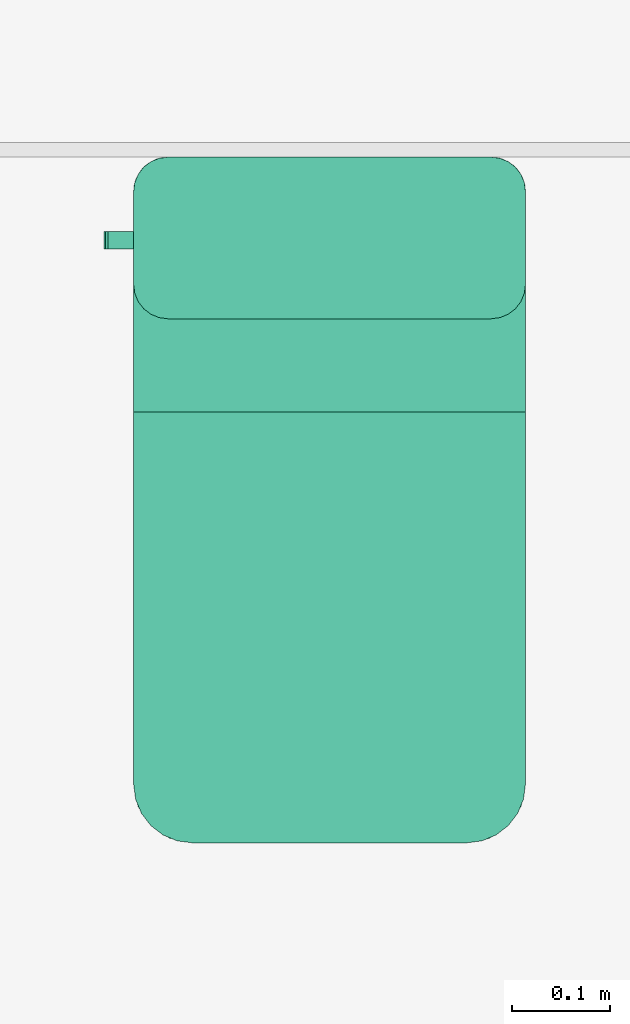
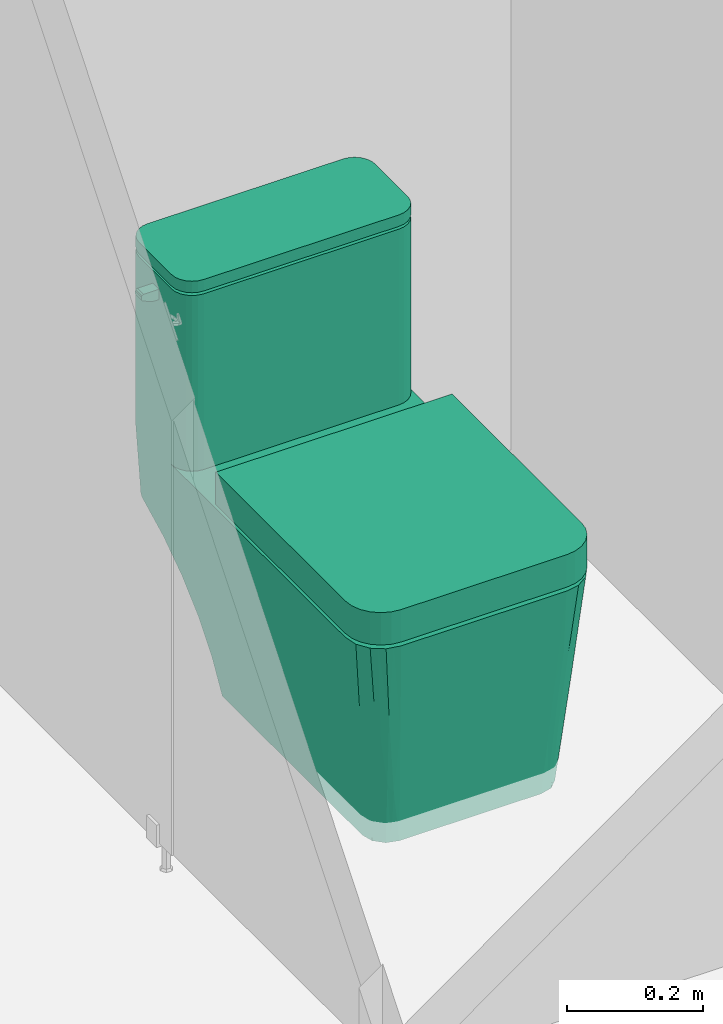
# One storey, part 70 of 76: 1 flow terminal.
"""IFC2X3 building model written with IfcOpenShell, lengths in millimetres."""

from ifc_helpers import new_model, entity, si_unit, converted_unit, derived_unit, direction, frame, origin, place, context, subcontext, project, spatial, faceted_brep, source, transform, mapped, material, material_list, type_object, type_shapes, element, save


model = new_model("IFC2X3")

# Units and contexts
model_context = context("Model", 3, precision=0.01, world=origin(), true_north=direction((6.123031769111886e-17, 1.0)))
body_context = subcontext(model_context, "Body", "Model", "MODEL_VIEW")
ifc_project = project(units=[si_unit("LENGTHUNIT", "METRE", prefix="MILLI"), si_unit("AREAUNIT", "SQUARE_METRE"), si_unit("VOLUMEUNIT", "CUBIC_METRE"), converted_unit("PLANEANGLEUNIT", "DEGREE", entity("IfcRatioMeasure", 0.017453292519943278), si_unit("PLANEANGLEUNIT", "RADIAN"), dimensions=[0, 0, 0, 0, 0, 0, 0]), si_unit("MASSUNIT", "GRAM", prefix="KILO"), derived_unit("MASSDENSITYUNIT", [(si_unit("MASSUNIT", "GRAM", prefix="KILO"), 1), (si_unit("LENGTHUNIT", "METRE"), -3)]), derived_unit("MOMENTOFINERTIAUNIT", [(si_unit("LENGTHUNIT", "METRE"), 4)]), si_unit("TIMEUNIT", "SECOND"), si_unit("FREQUENCYUNIT", "HERTZ"), si_unit("THERMODYNAMICTEMPERATUREUNIT", "DEGREE_CELSIUS"), derived_unit("THERMALTRANSMITTANCEUNIT", [(si_unit("MASSUNIT", "GRAM", prefix="KILO"), 1), (si_unit("THERMODYNAMICTEMPERATUREUNIT", "KELVIN"), -1), (si_unit("TIMEUNIT", "SECOND"), -3)]), derived_unit("VOLUMETRICFLOWRATEUNIT", [(si_unit("LENGTHUNIT", "METRE"), 3), (si_unit("TIMEUNIT", "SECOND"), -1)]), derived_unit("MASSFLOWRATEUNIT", [(si_unit("MASSUNIT", "GRAM", prefix="KILO"), 1), (si_unit("TIMEUNIT", "SECOND"), -1)]), derived_unit("ROTATIONALFREQUENCYUNIT", [(si_unit("TIMEUNIT", "SECOND"), -1)]), si_unit("ELECTRICCURRENTUNIT", "AMPERE"), si_unit("ELECTRICVOLTAGEUNIT", "VOLT"), si_unit("POWERUNIT", "WATT"), si_unit("FORCEUNIT", "NEWTON", prefix="KILO"), si_unit("ILLUMINANCEUNIT", "LUX"), si_unit("LUMINOUSFLUXUNIT", "LUMEN"), si_unit("LUMINOUSINTENSITYUNIT", "CANDELA"), derived_unit("USERDEFINED", [(si_unit("MASSUNIT", "GRAM", prefix="KILO"), -1), (si_unit("LENGTHUNIT", "METRE"), -2), (si_unit("TIMEUNIT", "SECOND"), 3), (si_unit("LUMINOUSFLUXUNIT", "LUMEN"), 1)]), derived_unit("SOUNDPOWERUNIT", [(si_unit("MASSUNIT", "GRAM", prefix="KILO"), 1), (si_unit("LENGTHUNIT", "METRE"), 2), (si_unit("TIMEUNIT", "SECOND"), -3)]), derived_unit("SOUNDPRESSUREUNIT", [(si_unit("MASSUNIT", "GRAM", prefix="KILO"), 1), (si_unit("LENGTHUNIT", "METRE"), -1), (si_unit("TIMEUNIT", "SECOND"), -2)]), derived_unit("LINEARVELOCITYUNIT", [(si_unit("LENGTHUNIT", "METRE"), 1), (si_unit("TIMEUNIT", "SECOND"), -1)]), si_unit("PRESSUREUNIT", "PASCAL"), derived_unit("USERDEFINED", [(si_unit("LENGTHUNIT", "METRE"), -2), (si_unit("MASSUNIT", "GRAM", prefix="KILO"), 1), (si_unit("TIMEUNIT", "SECOND"), -2)]), derived_unit("LINEARFORCEUNIT", [(si_unit("MASSUNIT", "GRAM", prefix="KILO"), 1), (si_unit("LENGTHUNIT", "METRE"), 1), (si_unit("TIMEUNIT", "SECOND"), -2), (si_unit("LENGTHUNIT", "METRE"), -1)]), derived_unit("PLANARFORCEUNIT", [(si_unit("MASSUNIT", "GRAM", prefix="KILO"), 1), (si_unit("LENGTHUNIT", "METRE"), 1), (si_unit("TIMEUNIT", "SECOND"), -2), (si_unit("LENGTHUNIT", "METRE"), -2)])], contexts=[model_context])

# Site, building, storey, space
site_placement = place(None, frame((-14167.972527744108, -657.2125860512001, 0.0)))
site = spatial("IfcSite", under=ifc_project, at=site_placement, Name="Default", CompositionType="ELEMENT")
building_placement = place(site_placement, origin())
building = spatial("IfcBuilding", under=site, at=building_placement, Name="Sample Building", CompositionType="ELEMENT")
storey_placement = place(building_placement, frame((0.0, 0.0, 9300.0)))
storey = spatial("IfcBuildingStorey", under=building, at=storey_placement, Name="지상 3층", CompositionType="ELEMENT", Elevation=9300.000000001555)
space_placement = place(storey_placement, origin())
space = spatial("IfcSpace", under=storey, at=space_placement, Name="203", CompositionType="ELEMENT", InteriorOrExteriorSpace="INTERNAL")

# Flow terminal
ifc_material_1 = material(Name="KBIMS-스테인리스 스틸_도금")
ifc_material_2 = material(Name="KBIMS-도기")
ifc_material_list_1 = material_list([ifc_material_1, ifc_material_2])
ifc_material_list_2 = material_list([ifc_material_1, ifc_material_2, ifc_material_2])
distribution_element_type = type_object("IfcDistributionElementType", Name="PF127-서양식 탱크일체형:PF127-서양식 탱크일체형", material=ifc_material_list_2)
shared_shape = source(origin(), body_context, "Body", "Brep", [
    faceted_brep([(-200.0, -93.78427766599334, 671.547634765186), (-226.3198216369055, -93.78427766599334, 671.5476347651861), (-228.9221007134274, -93.78427766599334, 670.469735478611), (-230.0, -93.78427766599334, 667.8674564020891), (-230.0, -93.78427766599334, 663.5153317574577), (-229.51628854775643, -93.78427766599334, 661.8557929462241), (-228.21666089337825, -93.78427766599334, 660.71605008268), (-215.9758797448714, -93.78427766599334, 655.0080800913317), (-211.766557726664, -93.78427766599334, 653.5792078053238), (-207.34774888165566, -93.78427766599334, 653.095269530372), (-200.0, -93.78427766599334, 653.095269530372), (-230.0, -75.66503821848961, 663.5153317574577), (-230.0, -75.66503821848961, 667.8674564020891), (-228.9221007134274, -75.66503821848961, 670.469735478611), (-226.31982163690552, -75.66503821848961, 671.5476347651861), (-200.0, -75.66503821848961, 671.547634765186), (-200.0, -75.66503821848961, 653.095269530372), (-207.34774888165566, -75.66503821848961, 653.095269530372), (-211.766557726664, -75.66503821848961, 653.5792078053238), (-215.97587974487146, -75.66503821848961, 655.0080800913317), (-228.21666089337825, -75.66503821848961, 660.71605008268), (-229.51628854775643, -75.66503821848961, 661.8557929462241)], [[[0, 1, 2, 3, 4, 5, 6, 7, 8, 9, 10]], [[11, 12, 13, 14, 15, 16, 17, 18, 19, 20, 21]], [[1, 14, 13, 2]], [[13, 12, 3, 2]], [[4, 3, 12, 11]], [[4, 11, 21, 5]], [[21, 20, 6, 5]], [[7, 6, 20, 19]], [[7, 19, 18, 8]], [[18, 17, 9, 8]], [[10, 9, 17, 16]], [[0, 10, 16, 15]], [[1, 0, 15, 14]]]),
    faceted_brep([(140.0, -700.0, 445.0), (155.52914270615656, -697.9555495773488, 445.0), (170.0, -691.9615242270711, 445.0), (182.42640687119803, -682.4264068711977, 445.0), (191.96152422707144, -670.0, 445.0), (197.9555495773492, -655.5291427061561, 445.0), (200.0, -640.0, 445.0), (200.0, -260.0, 445.0), (-200.0, -260.0, 445.0), (-200.0, -640.0, 445.0), (-197.95554957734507, -655.5291427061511, 445.0), (-191.96152422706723, -670.0, 445.0), (-182.42640687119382, -682.4264068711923, 445.0), (-170.0, -691.9615242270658, 445.0), (-155.52914270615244, -697.9555495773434, 445.0), (-140.0, -700.0, 445.0), (-200.0, -640.0, 386.96747142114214), (-200.0, -260.0, 386.96747142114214), (200.0, -260.0, 386.96747142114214), (200.0, -640.0, 386.96747142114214), (197.9555495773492, -655.5291427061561, 386.96747142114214), (191.96152422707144, -670.0, 386.96747142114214), (182.42640687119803, -682.4264068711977, 386.96747142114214), (170.0, -691.9615242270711, 386.96747142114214), (155.52914270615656, -697.9555495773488, 386.96747142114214), (140.0, -700.0, 386.96747142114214), (-140.0, -700.0, 386.96747142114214), (-155.52914270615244, -697.9555495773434, 386.96747142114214), (-170.0, -691.9615242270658, 386.96747142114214), (-182.42640687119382, -682.4264068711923, 386.96747142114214), (-191.96152422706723, -670.0, 386.96747142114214), (-197.95554957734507, -655.5291427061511, 386.96747142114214)], [[[0, 1, 2, 3, 4, 5, 6, 7, 8, 9, 10, 11, 12, 13, 14, 15]], [[16, 17, 18, 19, 20, 21, 22, 23, 24, 25, 26, 27, 28, 29, 30, 31]], [[1, 24, 23, 2]], [[2, 23, 22, 3]], [[25, 24, 1, 0]], [[4, 21, 20, 5]], [[5, 20, 19, 6]], [[3, 22, 21, 4]], [[7, 6, 19, 18]], [[8, 7, 18, 17]], [[9, 8, 17, 16]], [[10, 31, 30, 11]], [[11, 30, 29, 12]], [[9, 16, 31, 10]], [[13, 28, 27, 14]], [[14, 27, 26, 15]], [[12, 29, 28, 13]], [[0, 15, 26, 25]]]),
    faceted_brep([(165.0, 0.0, 694.4321747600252), (165.0, 0.0, 380.0), (164.13685378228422, 0.0, 314.40088745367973), (163.42105263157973, 0.0, 260.0), (-163.42105263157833, 0.0, 260.0), (-164.1368541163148, 0.0, 314.40091283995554), (-165.0, 0.0, 380.0), (-165.0, 0.0, 694.4321747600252), (-165.0, 0.0, 720.0), (165.0, 0.0, 720.0), (165.0, 0.0, 699.4321747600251), (-165.0, 0.0, 699.4321747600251), (200.0, -35.0, 694.4321747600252), (200.0, -130.0, 694.4321747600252), (200.0, -130.0, 380.0), (200.0, -35.0, 380.0), (200.0, -35.0, 720.0), (200.0, -130.0, 720.0), (200.0, -130.0, 699.4321747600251), (200.0, -35.0, 699.4321747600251), (-198.80740392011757, -139.05866657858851, 694.4321747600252), (-198.80740392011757, -139.0586665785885, 380.0), (-195.31088913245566, -147.5000000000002, 380.0), (-195.31088913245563, -147.50000000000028, 694.4321747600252), (-198.80740392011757, -139.05866657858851, 699.4321747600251), (-195.31088913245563, -147.50000000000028, 699.4321747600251), (-195.3108891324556, -147.50000000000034, 720.0), (-198.80740392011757, -139.05866657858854, 720.0), (-189.74873734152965, -154.74873734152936, 380.0), (-189.74873734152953, -154.74873734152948, 694.4321747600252), (-189.74873734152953, -154.74873734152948, 699.4321747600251), (-189.74873734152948, -154.74873734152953, 720.0), (-200.0, -130.0, 380.0), (-200.0, -130.0, 694.4321747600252), (-200.0, -130.0, 699.4321747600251), (-200.0, -130.0, 720.0), (-182.5000000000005, -160.31088913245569, 694.4321747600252), (-182.50000000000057, -160.31088913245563, 380.0), (-174.05866657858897, -163.80740392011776, 380.0), (-174.05866657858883, -163.8074039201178, 694.4321747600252), (-174.05866657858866, -163.80740392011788, 720.0), (-182.50000000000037, -160.31088913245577, 720.0), (-182.5000000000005, -160.31088913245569, 699.4321747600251), (-174.05866657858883, -163.8074039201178, 699.4321747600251), (-165.0, -165.0, 380.0), (-165.0, -165.0, 694.4321747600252), (-165.0, -165.0, 720.0), (-165.0, -165.0, 699.4321747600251), (165.0, -165.0, 694.4321747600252), (165.0, -165.0, 380.0), (165.0, -165.0, 720.0), (165.0, -165.0, 699.4321747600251), (-200.0, -35.0, 694.4321747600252), (-200.0, -35.0, 380.0), (-200.0, -35.0, 720.0), (-200.0, -35.0, 699.4321747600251), (198.80740392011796, -25.941333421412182, 699.4321747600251), (195.310889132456, -17.500000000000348, 699.4321747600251), (195.31088913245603, -17.500000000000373, 720.0), (198.80740392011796, -25.94133342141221, 720.0), (189.74873734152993, -10.251262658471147, 720.0), (189.74873734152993, -10.251262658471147, 699.4321747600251), (174.05866657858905, -1.1925960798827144, 699.4321747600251), (174.0586665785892, -1.192596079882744, 720.0), (182.50000000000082, -4.68911086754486, 699.4321747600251), (182.50000000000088, -4.68911086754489, 720.0), (174.05866657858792, -163.80740392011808, 694.4321747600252), (174.05866657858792, -163.80740392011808, 380.0), (182.49999999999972, -160.31088913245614, 380.0), (182.49999999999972, -160.31088913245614, 694.4321747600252), (174.05866657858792, -163.80740392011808, 699.4321747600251), (182.49999999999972, -160.31088913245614, 699.4321747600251), (182.5000000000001, -160.31088913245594, 720.0), (174.0586665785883, -163.80740392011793, 720.0), (189.74873734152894, -154.74873734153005, 380.0), (189.74873734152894, -154.74873734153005, 694.4321747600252), (189.74873734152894, -154.74873734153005, 699.4321747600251), (189.74873734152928, -154.74873734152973, 720.0), (195.31088913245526, -147.50000000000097, 694.4321747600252), (195.31088913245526, -147.50000000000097, 380.0), (198.8074039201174, -139.05866657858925, 380.0), (198.8074039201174, -139.05866657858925, 694.4321747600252), (195.31088913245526, -147.50000000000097, 699.4321747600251), (198.8074039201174, -139.05866657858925, 699.4321747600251), (198.80740392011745, -139.0586665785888, 720.0), (195.3108891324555, -147.50000000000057, 720.0), (-174.0586665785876, -1.1925960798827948, 720.0), (-174.0586665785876, -1.1925960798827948, 699.4321747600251), (-182.49999999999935, -4.689110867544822, 720.0), (-182.49999999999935, -4.689110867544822, 699.4321747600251), (-189.7487373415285, -10.251262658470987, 720.0), (-189.7487373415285, -10.251262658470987, 699.4321747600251), (-198.8074039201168, -25.941333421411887, 720.0), (-195.31088913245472, -17.50000000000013, 720.0), (-195.31088913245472, -17.50000000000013, 699.4321747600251), (-198.8074039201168, -25.941333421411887, 699.4321747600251), (-174.0586665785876, -1.192596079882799, 694.4321747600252), (-171.07672145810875, -0.5315585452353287, 380.0), (-176.96898132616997, -2.1101309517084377, 380.0), (-182.49999999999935, -4.689110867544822, 694.4321747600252), (-182.49783433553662, -4.687860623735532, 380.0), (-187.49533036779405, -8.18656844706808, 380.0), (-189.7487373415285, -10.251262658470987, 694.4321747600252), (-195.31088913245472, -17.50000000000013, 694.4321747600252), (-195.3094689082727, -17.4975403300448, 380.0), (-197.88846700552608, -23.02716666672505, 380.0), (-198.8074039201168, -25.941333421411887, 694.4321747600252), (-199.4680424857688, -28.921015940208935, 380.0), (-191.8095995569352, -12.500102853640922, 380.0), (198.80740392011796, -25.941333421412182, 694.4321747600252), (199.46810048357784, -28.92134479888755, 380.0), (197.88863680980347, -23.02763311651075, 380.0), (195.310889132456, -17.500000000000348, 694.4321747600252), (195.3097905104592, -17.498097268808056, 380.0), (191.81007551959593, -12.500669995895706, 380.0), (189.74873734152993, -10.251262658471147, 694.4321747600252), (182.50000000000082, -4.68911086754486, 694.4321747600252), (182.49858765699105, -4.6882954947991, 380.0), (176.9698186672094, -2.110435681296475, 380.0), (171.0775985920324, -0.5317131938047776, 380.0), (174.05866657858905, -1.1925960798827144, 694.4321747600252), (187.49595914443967, -8.187095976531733, 380.0), (160.0, -210.0, 0.0), (160.0, -620.0, 0.0), (156.6733983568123, -632.4150463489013, 0.0), (154.64101615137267, -640.0, 0.0), (147.3205080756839, -647.3205080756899, 0.0), (140.0, -654.6410161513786, 0.0), (132.41504577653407, -656.673398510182, 0.0), (120.0, -660.0, 0.0), (-120.0, -660.0, 0.0), (-132.4150463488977, -656.6733983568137, 0.0), (-140.0, -654.6410161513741, 0.0), (-147.32050807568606, -647.3205080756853, 0.0), (-154.64101615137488, -640.0, 0.0), (-156.67339851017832, -632.4150457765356, 0.0), (-160.0, -620.0, 0.0), (-160.0, -210.0, 0.0), (-200.0, -640.0, 380.0), (-197.71638597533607, -651.4805029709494, 380.0), (-195.43277195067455, -662.961005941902, 380.0), (-188.92958941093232, -672.6937064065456, 380.0), (-182.42640687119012, -682.4264068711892, 380.0), (-172.69370640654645, -688.9295894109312, 380.0), (-162.96100594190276, -695.4327719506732, 380.0), (-151.48050297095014, -697.7163859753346, 380.0), (-140.0, -700.0, 380.0), (140.0, -700.0, 380.0), (151.4805029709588, -697.7163859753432, 380.0), (162.9610059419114, -695.4327719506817, 380.0), (172.69370640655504, -688.9295894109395, 380.0), (182.42640687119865, -682.4264068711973, 380.0), (188.9295894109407, -672.6937064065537, 380.0), (195.4327719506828, -662.96100594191, 380.0), (197.7163859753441, -651.4805029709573, 380.0), (200.0, -640.0, 380.0), (181.88767422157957, -630.9438371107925, 207.93290510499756), (169.05616288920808, -624.5280814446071, 86.03354744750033), (166.41215116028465, -190.4623972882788, 60.91543602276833), (172.39104658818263, -161.03070825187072, 117.71494258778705), (177.76891724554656, -122.53079215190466, 168.80471383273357), (182.39485897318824, -76.04296457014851, 212.75116024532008), (186.13906689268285, -22.871683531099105, 248.32113548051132), (193.0948286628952, -28.957975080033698, 314.4008722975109), (184.4509041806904, -13.399793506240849, 253.3937042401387), (192.48236559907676, -21.712362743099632, 318.068486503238), (185.85897664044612, -18.078391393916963, 250.93098822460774), (169.4535256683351, -0.47508644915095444, 318.71364296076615), (176.81269594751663, -2.7853559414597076, 322.8232335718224), (184.85554366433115, -8.564241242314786, 317.5126549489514), (188.64536552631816, -13.805323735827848, 311.79954638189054), (181.93237214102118, -9.070973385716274, 255.5993773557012), (168.85282113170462, -0.6257823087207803, 259.7058617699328), (178.3784036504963, -5.339995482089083, 257.4452533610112), (173.94033185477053, -2.453774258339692, 258.83869964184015), (-193.09483031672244, -28.957976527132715, 314.4008880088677), (-192.48224700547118, -21.712007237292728, 318.06820833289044), (-185.85897664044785, -18.07839139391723, 250.93098822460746), (-169.4535400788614, -0.47508841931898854, 318.7138102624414), (-188.64533012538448, -13.805305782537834, 311.79916939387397), (-184.4509041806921, -13.399793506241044, 253.39370424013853), (-184.85525539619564, -8.563839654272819, 317.5148648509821), (-178.37840365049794, -5.3399954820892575, 257.44525336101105), (-181.93237214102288, -9.070973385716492, 255.59937735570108), (-186.13906689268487, -22.87168353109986, 248.32113548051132), (-176.81199260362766, -2.7850356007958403, 322.8227486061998), (-173.9403318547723, -2.4537742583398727, 258.8386996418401), (-168.85282113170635, -0.6257823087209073, 259.70586176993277), (-182.39485897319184, -76.04296457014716, 212.75116024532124), (-177.7689172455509, -122.53079215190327, 168.8047138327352), (-172.3910465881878, -161.03070825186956, 117.71494258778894), (-166.4121511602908, -190.46239728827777, 60.9154360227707), (-170.9438402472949, -625.4719201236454, 103.96648234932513), (-181.88767486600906, -630.9438374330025, 207.932911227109), (167.84723921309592, -644.8835703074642, 113.26853664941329), (182.70359618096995, -650.4613144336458, 244.34084888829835), (172.7916320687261, -658.8131569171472, 202.6373284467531), (163.28959461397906, -663.2895949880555, 167.00838556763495), (161.3612464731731, -651.454814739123, 94.73545488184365), (130.94384024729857, -681.8876804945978, 207.93296469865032), (137.1466297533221, -675.5797921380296, 155.949684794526), (142.81243148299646, -686.5857660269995, 259.99216222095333), (174.39327642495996, -671.2588406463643, 273.5041922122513), (151.45063444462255, -661.3663368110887, 94.74858838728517), (144.3377504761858, -669.7672265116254, 125.97246068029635), (152.4807217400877, -683.0768420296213, 253.0686677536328), (158.81315653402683, -672.7916326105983, 202.63733033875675), (125.47192012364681, -670.9438402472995, 103.96648234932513), (169.1268939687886, -634.5961485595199, 96.37357614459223), (-130.94383711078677, -681.8876742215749, 207.93290510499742), (-124.52808144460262, -669.056162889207, 86.03354744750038), (-144.88357030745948, -667.8472392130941, 113.26853664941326), (-150.46131443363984, -682.7035961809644, 244.34084888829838), (-158.8131569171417, -672.7916320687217, 202.6373284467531), (-163.28959498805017, -663.2895946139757, 167.00838556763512), (-151.4548147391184, -661.3612464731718, 94.73545488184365), (-175.57979213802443, -637.1466297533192, 155.94968479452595), (-186.58576602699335, -642.8124314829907, 259.99216222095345), (-171.25884064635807, -674.3932764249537, 273.50419221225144), (-161.36633681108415, -651.4506344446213, 94.74858838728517), (-169.76722651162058, -644.3377504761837, 125.97246068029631), (-172.79163261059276, -658.8131565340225, 202.63733033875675), (-134.5961485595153, -669.1268939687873, 96.37357614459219), (-183.07684202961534, -652.480721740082, 253.06866775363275), (-185.0, -150.0, 699.4321747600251), (-185.0, -15.0, 699.4321747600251), (-185.0, -15.0, 694.4321747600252), (-185.0, -150.0, 694.4321747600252), (185.0, -150.0, 699.4321747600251), (185.0, -150.0, 694.4321747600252), (185.0, -15.0, 699.4321747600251), (185.0, -15.0, 694.4321747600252)], [[[0, 1, 2, 3, 4, 5, 6, 7]], [[8, 9, 10, 11]], [[12, 13, 14, 15]], [[16, 17, 18, 19]], [[20, 21, 22, 23]], [[24, 25, 26, 27]], [[23, 22, 28, 29]], [[25, 30, 31, 26]], [[32, 21, 20, 33]], [[34, 24, 27, 35]], [[36, 37, 38, 39]], [[40, 41, 42, 43]], [[39, 38, 44, 45]], [[46, 40, 43, 47]], [[29, 28, 37, 36]], [[30, 42, 41, 31]], [[48, 45, 44, 49]], [[50, 46, 47, 51]], [[33, 52, 53, 32]], [[35, 54, 55, 34]], [[56, 57, 58, 59]], [[19, 56, 59, 16]], [[60, 58, 57, 61]], [[62, 10, 9, 63]], [[64, 62, 63, 65]], [[61, 64, 65, 60]], [[66, 67, 68, 69]], [[70, 71, 72, 73]], [[69, 68, 74, 75]], [[71, 76, 77, 72]], [[49, 67, 66, 48]], [[51, 70, 73, 50]], [[78, 79, 80, 81]], [[82, 83, 84, 85]], [[81, 80, 14, 13]], [[83, 18, 17, 84]], [[75, 74, 79, 78]], [[76, 82, 85, 77]], [[86, 8, 11, 87]], [[88, 86, 87, 89]], [[90, 88, 89, 91]], [[92, 93, 94, 95]], [[54, 92, 95, 55]], [[91, 94, 93, 90]], [[9, 8, 86, 88, 90, 93, 92, 54, 35, 27, 26, 31, 41, 40, 46, 50, 73, 72, 77, 85, 84, 17, 16, 59, 58, 60, 65, 63]], [[96, 97, 98]], [[99, 98, 100]], [[99, 100, 101]], [[6, 97, 7]], [[7, 97, 96]], [[98, 99, 96]], [[101, 102, 99]], [[103, 104, 105]], [[106, 105, 107]], [[52, 107, 53]], [[102, 108, 103]], [[108, 102, 101]], [[104, 103, 108]], [[105, 106, 103]], [[107, 52, 106]], [[109, 110, 111]], [[112, 111, 113]], [[112, 113, 114]], [[15, 110, 12]], [[12, 110, 109]], [[111, 112, 109]], [[114, 115, 112]], [[116, 117, 118]], [[118, 119, 120]], [[1, 0, 119]], [[115, 121, 116]], [[121, 115, 114]], [[117, 116, 121]], [[118, 120, 116]], [[119, 0, 120]], [[122, 123, 124, 125, 126, 127, 128, 129, 130, 131, 132, 133, 134, 135, 136, 137]], [[21, 32, 138, 139, 140, 141, 142, 143, 144, 145, 146, 147, 148, 149, 150, 151, 152, 153, 154, 155, 14, 80, 79, 74, 68, 67, 49, 44, 38, 37, 28, 22]], [[14, 155, 156, 157, 123, 122, 158, 159, 160, 161, 162, 163, 15]], [[164, 165, 166]], [[1, 119, 167]], [[118, 117, 168]], [[169, 170, 171]], [[121, 169, 168]], [[117, 121, 168]], [[2, 1, 167, 3]], [[170, 114, 113]], [[172, 167, 168]], [[110, 15, 163]], [[173, 174, 168]], [[171, 173, 169]], [[114, 169, 121]], [[111, 165, 170]], [[111, 110, 165]], [[3, 167, 172]], [[165, 163, 166]], [[168, 169, 173]], [[169, 114, 170]], [[172, 168, 174]], [[171, 170, 164]], [[164, 170, 165]], [[168, 167, 118]], [[166, 163, 162]], [[163, 165, 110]], [[167, 119, 118]], [[170, 113, 111]], [[175, 176, 177]], [[98, 97, 178]], [[176, 105, 179]], [[176, 179, 180]], [[108, 181, 179]], [[182, 183, 181]], [[175, 107, 176]], [[6, 5, 4, 178]], [[184, 175, 177]], [[176, 180, 177]], [[182, 185, 186]], [[179, 183, 180]], [[105, 104, 179]], [[101, 181, 108]], [[185, 100, 98]], [[185, 98, 178]], [[185, 178, 187]], [[97, 6, 178]], [[101, 100, 185]], [[181, 101, 185]], [[107, 105, 176]], [[185, 182, 181]], [[185, 187, 186]], [[175, 53, 107]], [[178, 4, 187]], [[181, 183, 179]], [[179, 104, 108]], [[138, 32, 53, 175, 184, 188, 189, 190, 191, 137, 136, 192, 193]], [[194, 195, 196]], [[197, 126, 198]], [[199, 200, 201]], [[156, 154, 195]], [[202, 152, 151]], [[196, 152, 202]], [[127, 203, 204]], [[194, 198, 125]], [[150, 205, 206]], [[203, 206, 204]], [[124, 194, 125]], [[198, 194, 196]], [[200, 199, 207]], [[123, 157, 156, 208]], [[194, 124, 208]], [[206, 197, 202]], [[194, 208, 195]], [[150, 202, 151]], [[156, 195, 208]], [[123, 208, 124]], [[126, 197, 203]], [[197, 198, 196]], [[126, 125, 198]], [[202, 197, 196]], [[197, 206, 203]], [[127, 204, 128]], [[126, 203, 127]], [[206, 205, 204]], [[202, 150, 206]], [[128, 204, 200]], [[195, 152, 196]], [[148, 205, 149]], [[152, 195, 153]], [[205, 148, 201]], [[128, 200, 207]], [[205, 201, 200]], [[129, 128, 207]], [[205, 200, 204]], [[147, 199, 201]], [[154, 156, 155]], [[154, 153, 195]], [[149, 205, 150]], [[148, 147, 201]], [[146, 209, 210, 130, 129, 207, 199, 147]], [[211, 212, 213]], [[214, 133, 215]], [[193, 216, 217]], [[209, 145, 212]], [[218, 143, 142]], [[213, 143, 218]], [[134, 219, 220]], [[211, 215, 132]], [[142, 141, 218]], [[219, 221, 220]], [[131, 211, 132]], [[215, 211, 213]], [[216, 193, 192]], [[130, 210, 209, 222]], [[211, 131, 222]], [[221, 214, 218]], [[211, 222, 212]], [[218, 141, 221]], [[209, 212, 222]], [[130, 222, 131]], [[133, 214, 219]], [[214, 215, 213]], [[133, 132, 215]], [[218, 214, 213]], [[214, 221, 219]], [[134, 220, 135]], [[133, 219, 134]], [[221, 223, 220]], [[141, 223, 221]], [[135, 220, 216]], [[212, 143, 213]], [[223, 141, 140]], [[143, 212, 144]], [[223, 139, 217]], [[135, 216, 192]], [[223, 217, 216]], [[136, 135, 192]], [[223, 216, 220]], [[138, 193, 217]], [[145, 209, 146]], [[145, 144, 212]], [[139, 223, 140]], [[139, 138, 217]], [[186, 187, 4]], [[182, 186, 4]], [[4, 180, 183]], [[182, 4, 183]], [[4, 3, 162, 184]], [[172, 174, 3]], [[173, 3, 174]], [[171, 3, 173]], [[164, 3, 171]], [[164, 166, 3]], [[162, 3, 166]], [[177, 180, 4]], [[184, 162, 161, 188]], [[190, 189, 160, 159]], [[160, 189, 188, 161]], [[191, 190, 159, 158]], [[191, 158, 122, 137]], [[177, 4, 184]], [[224, 225, 226, 227]], [[228, 224, 227, 229]], [[230, 228, 229, 231]], [[225, 230, 231, 226]], [[78, 81, 229]], [[229, 75, 78]], [[81, 13, 229]], [[231, 229, 13]], [[13, 12, 231]], [[12, 109, 231]], [[231, 109, 112]], [[112, 115, 231]], [[115, 116, 231]], [[120, 231, 116]], [[231, 120, 0]], [[231, 0, 226]], [[226, 0, 7]], [[226, 7, 96]], [[96, 99, 226]], [[102, 226, 99]], [[103, 226, 102]], [[226, 103, 106]], [[106, 52, 226]], [[33, 226, 52]], [[33, 227, 226]], [[20, 227, 33]], [[23, 227, 20]], [[29, 227, 23]], [[29, 36, 227]], [[39, 227, 36]], [[227, 39, 45]], [[48, 227, 45]], [[229, 48, 66]], [[48, 229, 227]], [[66, 69, 229]], [[75, 229, 69]], [[57, 56, 230]], [[230, 61, 57]], [[56, 19, 230]], [[228, 230, 19]], [[19, 18, 228]], [[18, 83, 228]], [[228, 83, 82]], [[82, 76, 228]], [[76, 71, 228]], [[70, 228, 71]], [[228, 70, 51]], [[224, 228, 51]], [[51, 47, 224]], [[224, 47, 43]], [[43, 42, 224]], [[30, 224, 42]], [[25, 224, 30]], [[224, 25, 24]], [[24, 34, 224]], [[55, 224, 34]], [[55, 225, 224]], [[95, 225, 55]], [[94, 225, 95]], [[91, 225, 94]], [[91, 89, 225]], [[87, 225, 89]], [[225, 87, 11]], [[10, 225, 11]], [[230, 10, 62]], [[230, 225, 10]], [[62, 64, 230]], [[61, 230, 64]]]),
])
type_shapes(distribution_element_type, [shared_shape])
flow_terminal_placement = place(space_placement, frame((40287.963755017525, 25397.212300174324, 0.0)))
element("IfcFlowTerminal", 1, at=flow_terminal_placement, inside=space, type_object=distribution_element_type, material=ifc_material_list_1, Name="PF127-서양식 탱크일체형:PF127-서양식 탱크일체형", ObjectType="PF127-서양식 탱크일체형:PF127-서양식 탱크일체형", context=body_context, shape_type="MappedRepresentation", body=[
    mapped(shared_shape, transform((0.0, 0.0, 0.0), scale=1.0)),
])

save(model, "model.ifc")
